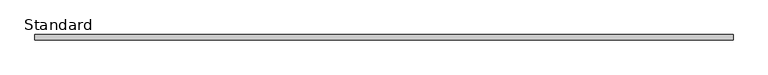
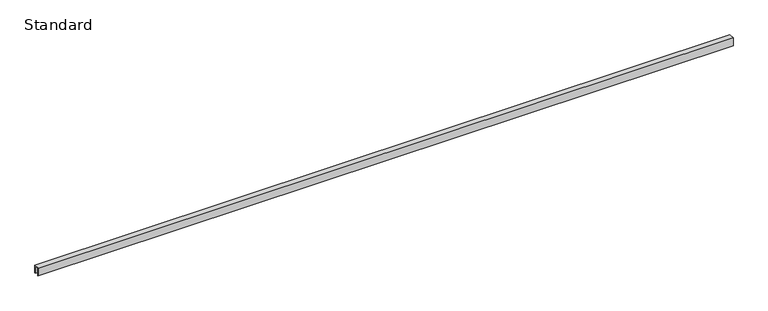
"""IFC4 building model written with IfcOpenShell, lengths in millimetres: furniture geometry, X_Partition-Channel-Duracube-Ceiling : Standard."""

import ifcopenshell
import ifcopenshell.guid

model = None  # the IFC model being written
_history = None  # IfcOwnerHistory: only IFC2X3 demands one
_inside = {}  # id of a spatial element -> (the spatial element, [elements in it])
_under = {}  # id of a project, library or spatial element -> (it, [spatial elements below it])
_declared = {}  # id of a project -> (the project, [libraries it declares])
_typed = {}  # id of a type object -> (the type object, [elements of that type])
_made_of = {}  # id of a material, layer set ... -> (it, [elements and type objects made of it])


def new_model(schema):
    """Start an empty IFC model of exactly this schema.

    Asked for "IFC4X3", IfcOpenShell would pick the latest addendum, in which some entities
    have other attributes; the version numbers below select the first issue.
    IFC2X3 requires an IfcOwnerHistory on every rooted entity: one is made here for all.
    """
    global model, _history
    if schema == "IFC4X3":
        model = ifcopenshell.file(schema_version=(4, 3, 0, 0))
    else:
        model = ifcopenshell.file(schema=schema)
    _inside.clear()
    _under.clear()
    _declared.clear()
    _typed.clear()
    _made_of.clear()
    _history = None
    if model.schema == "IFC2X3":
        org = make("IfcOrganization", Name="unknown")
        user = make(
            "IfcPersonAndOrganization",
            ThePerson=make("IfcPerson", FamilyName="unknown"),
            TheOrganization=org,
        )
        app = make(
            "IfcApplication",
            ApplicationDeveloper=org,
            Version="unknown",
            ApplicationFullName="unknown",
            ApplicationIdentifier="unknown",
        )
        _history = make(
            "IfcOwnerHistory",
            OwningUser=user,
            OwningApplication=app,
            ChangeAction="ADDED",
            CreationDate=0,
        )
    return model


def make(cls, **values):
    """One entity of the class cls with the attributes given. An attribute that is None is left unset."""
    return model.create_entity(
        cls, **{name: value for name, value in values.items() if value is not None}
    )


def rooted(cls, **values):
    """An entity with a GlobalId (a new one), such as an element, a storey or a relation."""
    return make(cls, GlobalId=ifcopenshell.guid.new(), OwnerHistory=_history, **values)


def si_unit(unit_type, name, prefix=None):
    """IfcSIUnit, for example si_unit("LENGTHUNIT", "METRE", prefix="MILLI")."""
    return make("IfcSIUnit", UnitType=unit_type, Prefix=prefix, Name=name)


def assignment(units):
    """IfcUnitAssignment: the units of a project."""
    return None if units is None else make("IfcUnitAssignment", Units=units)


def point(xyz):
    """IfcCartesianPoint."""
    return None if xyz is None else make("IfcCartesianPoint", Coordinates=xyz)


def direction(xyz):
    """IfcDirection."""
    return None if xyz is None else make("IfcDirection", DirectionRatios=xyz)


def frame(location, z_axis=None, x_axis=None):
    """IfcAxis2Placement3D, a coordinate frame: its origin and axes. An axis left out is left unset."""
    return make(
        "IfcAxis2Placement3D",
        Location=point(location),
        Axis=direction(z_axis),
        RefDirection=direction(x_axis),
    )


def origin():
    """The frame at (0, 0, 0) with its axes left unset."""
    return frame((0.0, 0.0, 0.0))


def place(relative_to, where):
    """IfcLocalPlacement: puts the frame where relative to a parent placement (None: the world)."""
    return make(
        "IfcLocalPlacement", PlacementRelTo=relative_to, RelativePlacement=where
    )


def context(
    kind, dimensions, precision=None, world=None, true_north=None, identifier=None
):
    """IfcGeometricRepresentationContext, for example the 3D "Model" context."""
    return make(
        "IfcGeometricRepresentationContext",
        ContextIdentifier=identifier,
        ContextType=kind,
        CoordinateSpaceDimension=dimensions,
        Precision=precision,
        WorldCoordinateSystem=world,
        TrueNorth=true_north,
    )


def project(units=None, contexts=None):
    """IfcProject with its units and contexts."""
    return rooted(
        "IfcProject",
        Name="project",
        RepresentationContexts=contexts,
        UnitsInContext=assignment(units),
    )


def spatial(cls, under=None, at=None, **own):
    """A site, building, storey or space (cls), placed at a placement, below another one or the project."""
    s = rooted(cls, ObjectPlacement=at, **own)
    if under is not None:
        _under.setdefault(under.id(), (under, []))[1].append(s)
    return s


def polyline(points):
    """IfcPolyline through the points."""
    return make("IfcPolyline", Points=[point(p) for p in points])


def outline(outer, holes=None, kind="AREA"):
    """IfcArbitraryClosedProfileDef: a profile drawn as a closed curve; with holes, ...WithVoids."""
    if holes is None:
        return make("IfcArbitraryClosedProfileDef", ProfileType=kind, OuterCurve=outer)
    return make(
        "IfcArbitraryProfileDefWithVoids",
        ProfileType=kind,
        OuterCurve=outer,
        InnerCurves=holes,
    )


def extrude(swept, where, along, depth):
    """IfcExtrudedAreaSolid: the profile swept, set in the frame where, extruded along a direction by depth."""
    return make(
        "IfcExtrudedAreaSolid",
        SweptArea=swept,
        Position=where,
        ExtrudedDirection=direction(along),
        Depth=depth,
    )


def shape(context_of_items, identifier, shape_type, items):
    """IfcShapeRepresentation: the items that make up one representation, for example the "Body"."""
    return make(
        "IfcShapeRepresentation",
        ContextOfItems=context_of_items,
        RepresentationIdentifier=identifier,
        RepresentationType=shape_type,
        Items=items,
    )


def source(mapping_origin, context_of_items, identifier, shape_type, items):
    """IfcRepresentationMap: a shape defined once, which mapped items show again and again."""
    return make(
        "IfcRepresentationMap",
        MappingOrigin=mapping_origin,
        MappedRepresentation=shape(context_of_items, identifier, shape_type, items),
    )


def transform(
    local_origin,
    x_axis=None,
    y_axis=None,
    z_axis=None,
    scale=None,
    scale2=None,
    scale3=None,
    uniform=True,
):
    """IfcCartesianTransformationOperator3D, or its non-uniform kind. x_axis, y_axis, z_axis: its Axis1, 2, 3."""
    if uniform:
        return make(
            "IfcCartesianTransformationOperator3D",
            Axis1=direction(x_axis),
            Axis2=direction(y_axis),
            LocalOrigin=point(local_origin),
            Scale=scale,
            Axis3=direction(z_axis),
        )
    return make(
        "IfcCartesianTransformationOperator3DnonUniform",
        Axis1=direction(x_axis),
        Axis2=direction(y_axis),
        LocalOrigin=point(local_origin),
        Scale=scale,
        Axis3=direction(z_axis),
        Scale2=scale2,
        Scale3=scale3,
    )


def mapped(mapping_source, mapping_target):
    """IfcMappedItem: shows the shape of a source again, moved by a transform."""
    return make(
        "IfcMappedItem", MappingSource=mapping_source, MappingTarget=mapping_target
    )


def made_of(thing, what):
    """Note that an element or type object is made of a material, layer set ...; save() writes the relation."""
    if what is not None:
        _made_of.setdefault(what.id(), (what, []))[1].append(thing)
    return thing


def element(
    cls,
    number,
    at=None,
    inside=None,
    cuts=None,
    type_object=None,
    material=None,
    context=None,
    identifier="Body",
    shape_type=None,
    held_by="IfcProductDefinitionShape",
    body=None,
    shapes=None,
    **own,
):
    """One element of the class cls, such as IfcWall. Its Tag is "e" and its number.

    at: its placement. inside: the storey or other place that contains it. cuts: it is an
    opening in that element (IfcRelVoidsElement). A single representation is given by context,
    identifier, shape_type and body (its items); several are given by shapes. held_by: the class
    of the entity that holds the representations. save() writes the other relations.
    """
    e = rooted(cls, Tag="e%d" % number, ObjectPlacement=at, **own)
    if body is not None:
        shapes = [shape(context, identifier, shape_type, body)]
    if shapes is not None:
        e.Representation = make(held_by, Representations=shapes)
    if inside is not None:
        _inside.setdefault(inside.id(), (inside, []))[1].append(e)
    if cuts is not None:
        rooted(
            "IfcRelVoidsElement", RelatingBuildingElement=cuts, RelatedOpeningElement=e
        )
    if type_object is not None:
        _typed.setdefault(type_object.id(), (type_object, []))[1].append(e)
    return made_of(e, material)


def aggregate(whole, parts):
    """IfcRelAggregates: a whole, such as a stair, and the parts it consists of."""
    return rooted("IfcRelAggregates", RelatingObject=whole, RelatedObjects=parts)


def save(model, path):
    """Write the relations noted so far, then the file.

    IfcRelAggregates (storeys below a building ...), IfcRelContainedInSpatialStructure (elements
    in a storey), IfcRelDefinesByType, IfcRelAssociatesMaterial and IfcRelDeclares: one each for
    every whole, place, type object, material and project.
    """
    for whole, parts in _under.values():
        aggregate(whole, parts)
    for where, things in _inside.values():
        rooted(
            "IfcRelContainedInSpatialStructure",
            RelatedElements=things,
            RelatingStructure=where,
        )
    for kind, things in _typed.values():
        rooted("IfcRelDefinesByType", RelatedObjects=things, RelatingType=kind)
    for what, things in _made_of.values():
        rooted("IfcRelAssociatesMaterial", RelatedObjects=things, RelatingMaterial=what)
    for by, libraries in _declared.values():
        rooted("IfcRelDeclares", RelatingContext=by, RelatedDefinitions=libraries)
    model.write(path)


def standard_48aedc78(model_context):
    return source(origin(), model_context, "Body", "SweptSolid", [
        extrude(outline(polyline([(0.0, 0.0), (-2.0, 0.0), (-2.0, 24.0), (-15.0, 24.0), (-15.0, 0.0), (-17.0, 0.0), (-17.0, 26.0), (0.0, 26.0), (0.0, 0.0)])), frame((-1057.2996736, 0.0, 0.0), z_axis=(1.0, 0.0, 0.0), x_axis=(0.0, 1.0, 0.0)), (0.0, 0.0, 1.0), 2204.0),
    ])


if __name__ == "__main__":
    model = new_model("IFC4")
    model_context = context("Model", 3, world=origin())
    ifc_project = project(units=[si_unit("LENGTHUNIT", "METRE", prefix="MILLI")], contexts=[model_context])
    site = spatial("IfcSite", under=ifc_project)
    building = spatial("IfcBuilding", under=site)
    placement = place(None, origin())
    standard_shape = standard_48aedc78(model_context)
    element("IfcFurniture", 1, ObjectType="X_Partition-Channel-Duracube-Ceiling : Standard", at=placement, inside=building, context=model_context, shape_type="MappedRepresentation", body=[
        mapped(standard_shape, transform((0.0, 0.0, 0.0), x_axis=(1.0, 0.0, 0.0), y_axis=(0.0, 1.0, 0.0), z_axis=(0.0, 0.0, 1.0))),
    ])
    save(model, "model.ifc")
